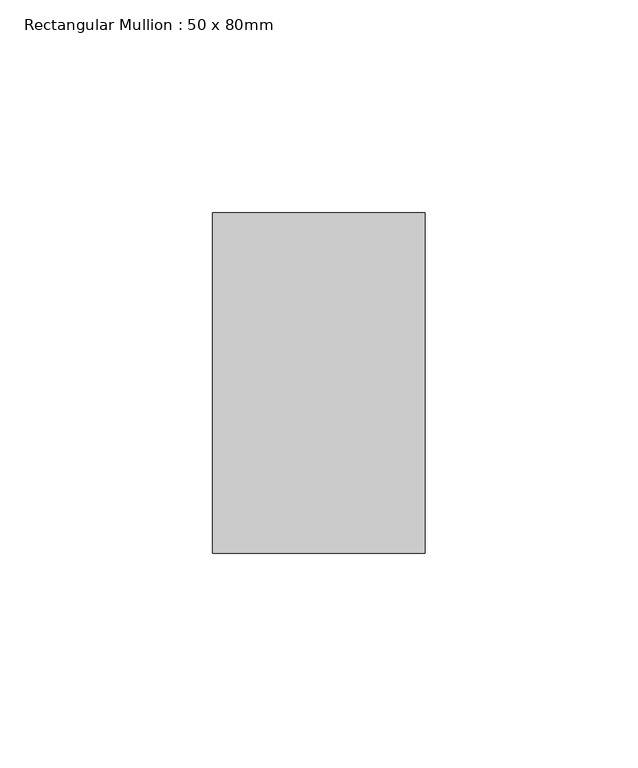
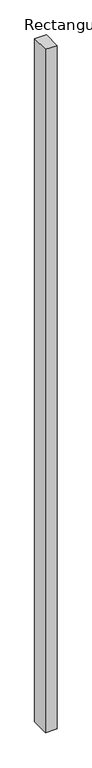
"""IFC4 building model written with IfcOpenShell, lengths in millimetres: member geometry, Rectangular Mullion : 50 x 80mm."""

from ifc_helpers import new_model, si_unit, frame, origin, place, context, project, spatial, polyline, outline, extrude, source, transform, mapped, element, save


def rectangular_mullion_50_x_80mm_e20e2da3(model_context):
    return source(origin(), model_context, "Body", "SweptSolid", [
        extrude(outline(polyline([(0.0, 25.0), (0.0, -55.0), (-50.0, -55.0), (-50.0, 25.0), (0.0, 25.0)])), frame((0.0, 0.0, -3100.0), z_axis=(0.0, 0.0, 1.0), x_axis=(1.0, 0.0, 0.0)), (0.0, 0.0, 1.0), 3100.0),
    ])


if __name__ == "__main__":
    model = new_model("IFC4")
    model_context = context("Model", 3, world=origin())
    ifc_project = project(units=[si_unit("LENGTHUNIT", "METRE", prefix="MILLI")], contexts=[model_context])
    site = spatial("IfcSite", under=ifc_project)
    building = spatial("IfcBuilding", under=site)
    placement = place(None, origin())
    rectangular_mullion_50_x_80mm_shape = rectangular_mullion_50_x_80mm_e20e2da3(model_context)
    element("IfcMember", 1, ObjectType="Rectangular Mullion : 50 x 80mm", at=placement, inside=building, context=model_context, shape_type="MappedRepresentation", body=[
        mapped(rectangular_mullion_50_x_80mm_shape, transform((0.0, 0.0, 0.0), x_axis=(1.0, 0.0, 0.0), y_axis=(0.0, 1.0, 0.0), z_axis=(0.0, 0.0, 1.0))),
    ])
    save(model, "model.ifc")
